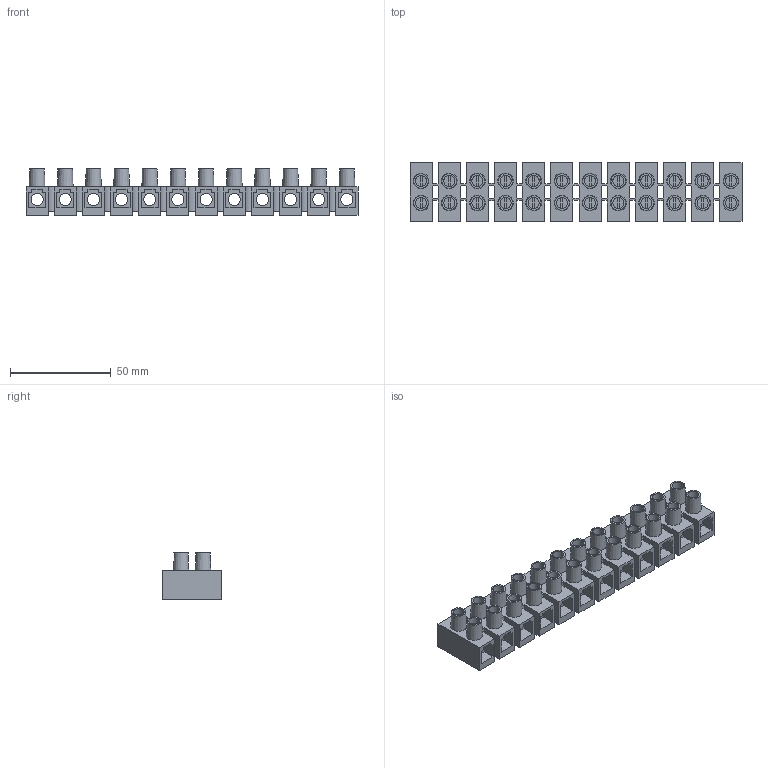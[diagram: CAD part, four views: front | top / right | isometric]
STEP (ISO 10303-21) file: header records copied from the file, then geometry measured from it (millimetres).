
FILE_DESCRIPTION(/* description */ ('Unknown'),/* implementation_level */ '2;1');
FILE_NAME(/* name */ 'MT 1116 PH',/* time_stamp */ '2021-10-08T10:06:17+02:00',/* author */ ('Unknown'),/* organization */ ('Unknown'),/* preprocessor_version */ 'ST-DEVELOPER v16.7',/* originating_system */ 'Solid Edge',/* authorisation */ 'Unknown');
FILE_SCHEMA (('AUTOMOTIVE_DESIGN {1 0 10303 214 3 1 1}'));
Length unit declared in the file: millimetre
Products named in the file (1): MT 1116 PH
Bounding box: 165 x 29 x 23 mm (x, y, z)
Volume: 43373.1 mm3; surface area: 37908.9 mm2
Topology: 1 solids, 1 shells, 607 faces, 1608 edges, 1076 vertices
Faces by surface type: plane 503, cylinder 80, cone 24
Full cylindrical faces by diameter (mm): 5.5 x24, 6 x12
Entity records: 18196 total; most frequent: CARTESIAN_POINT 3160, ORIENTED_EDGE 3024, DIRECTION 3008, EDGE_CURVE 1512, LINE 1232, VECTOR 1232, VERTEX_POINT 1040, AXIS2_PLACEMENT_3D 888
